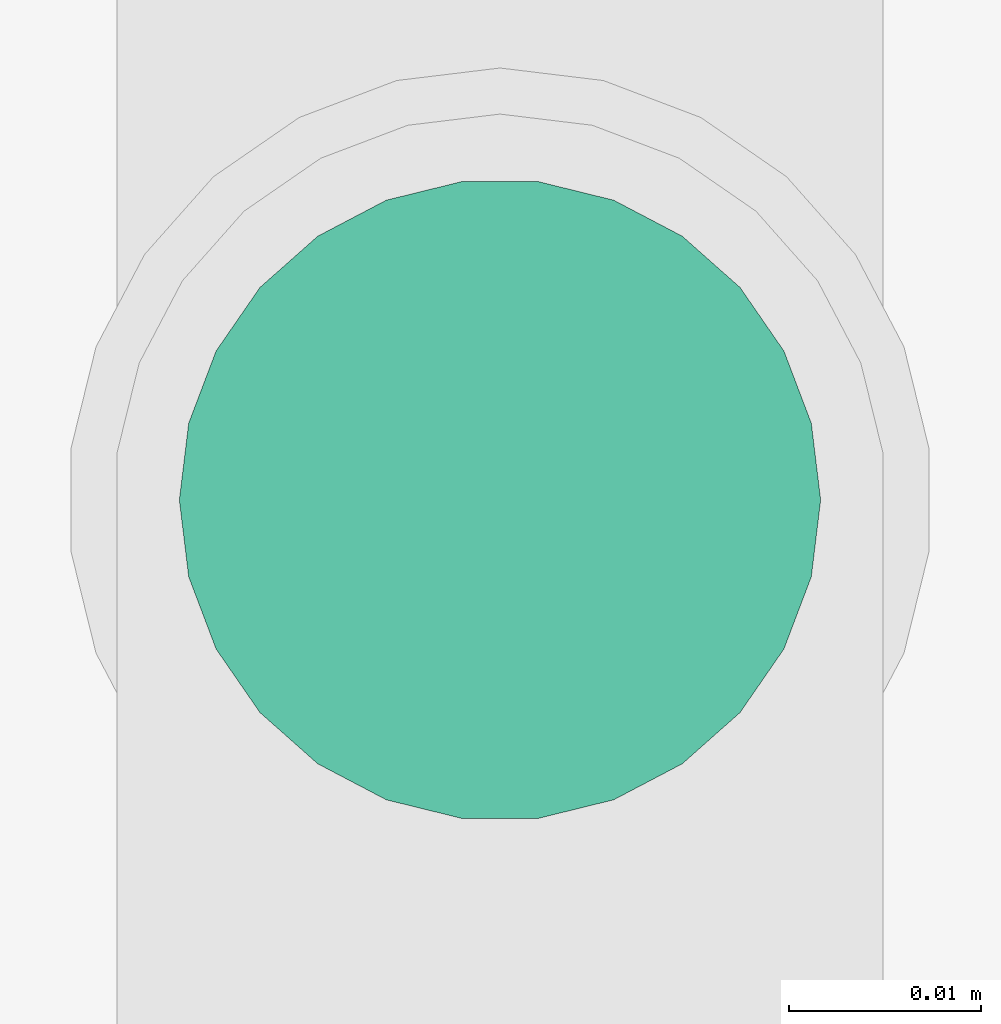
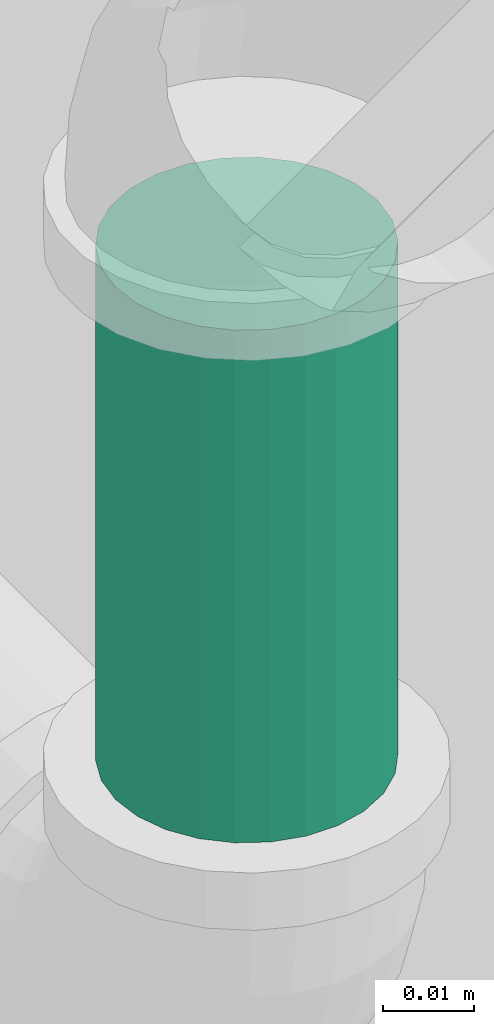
# One storey, part 97 of 108: 1 pipe segment.
"""IFC4 building model written with IfcOpenShell, lengths in feet."""

import ifcopenshell
import ifcopenshell.guid

model = None  # the IFC model being written
_history = None  # IfcOwnerHistory: only IFC2X3 demands one
_inside = {}  # id of a spatial element -> (the spatial element, [elements in it])
_under = {}  # id of a project, library or spatial element -> (it, [spatial elements below it])
_declared = {}  # id of a project -> (the project, [libraries it declares])
_typed = {}  # id of a type object -> (the type object, [elements of that type])
_made_of = {}  # id of a material, layer set ... -> (it, [elements and type objects made of it])


def new_model(schema):
    """Start an empty IFC model of exactly this schema.

    Asked for "IFC4X3", IfcOpenShell would pick the latest addendum, in which some entities
    have other attributes; the version numbers below select the first issue.
    IFC2X3 requires an IfcOwnerHistory on every rooted entity: one is made here for all.
    """
    global model, _history
    if schema == "IFC4X3":
        model = ifcopenshell.file(schema_version=(4, 3, 0, 0))
    else:
        model = ifcopenshell.file(schema=schema)
    _inside.clear()
    _under.clear()
    _declared.clear()
    _typed.clear()
    _made_of.clear()
    _history = None
    if model.schema == "IFC2X3":
        org = make("IfcOrganization", Name="unknown")
        user = make(
            "IfcPersonAndOrganization",
            ThePerson=make("IfcPerson", FamilyName="unknown"),
            TheOrganization=org,
        )
        app = make(
            "IfcApplication",
            ApplicationDeveloper=org,
            Version="unknown",
            ApplicationFullName="unknown",
            ApplicationIdentifier="unknown",
        )
        _history = make(
            "IfcOwnerHistory",
            OwningUser=user,
            OwningApplication=app,
            ChangeAction="ADDED",
            CreationDate=0,
        )
    return model


def make(cls, **values):
    """One entity of the class cls with the attributes given. An attribute that is None is left unset."""
    return model.create_entity(
        cls, **{name: value for name, value in values.items() if value is not None}
    )


def entity(cls, *values):
    """Any entity or typed value of the class cls, its attributes in the order of the schema. None: left unset."""
    e = model.create_entity(cls)
    for i, value in enumerate(values):
        if value is not None:
            e[i] = value
    return e


def rooted(cls, **values):
    """An entity with a GlobalId (a new one), such as an element, a storey or a relation."""
    return make(cls, GlobalId=ifcopenshell.guid.new(), OwnerHistory=_history, **values)


def si_unit(unit_type, name, prefix=None):
    """IfcSIUnit, for example si_unit("LENGTHUNIT", "METRE", prefix="MILLI")."""
    return make("IfcSIUnit", UnitType=unit_type, Prefix=prefix, Name=name)


def converted_unit(unit_type, name, factor, base, dimensions=None, offset=None):
    """IfcConversionBasedUnit, such as the inch: factor (a typed value) times the base unit."""
    return make(
        "IfcConversionBasedUnit"
        if offset is None
        else "IfcConversionBasedUnitWithOffset",
        ConversionOffset=offset,
        Dimensions=None
        if dimensions is None
        else entity("IfcDimensionalExponents", *dimensions),
        UnitType=unit_type,
        Name=name,
        ConversionFactor=make(
            "IfcMeasureWithUnit", ValueComponent=factor, UnitComponent=base
        ),
    )


def derived_unit(unit_type, elements):
    """IfcDerivedUnit: a product of units, each with its exponent."""
    return make(
        "IfcDerivedUnit",
        Elements=[
            make("IfcDerivedUnitElement", Unit=unit, Exponent=power)
            for unit, power in elements
        ],
        UnitType=unit_type,
    )


def assignment(units):
    """IfcUnitAssignment: the units of a project."""
    return None if units is None else make("IfcUnitAssignment", Units=units)


def point(xyz):
    """IfcCartesianPoint."""
    return None if xyz is None else make("IfcCartesianPoint", Coordinates=xyz)


def direction(xyz):
    """IfcDirection."""
    return None if xyz is None else make("IfcDirection", DirectionRatios=xyz)


def frame(location, z_axis=None, x_axis=None):
    """IfcAxis2Placement3D, a coordinate frame: its origin and axes. An axis left out is left unset."""
    return make(
        "IfcAxis2Placement3D",
        Location=point(location),
        Axis=direction(z_axis),
        RefDirection=direction(x_axis),
    )


def frame_2d(location, x_axis=None):
    """IfcAxis2Placement2D, a coordinate frame in the plane: its origin and x axis."""
    return make(
        "IfcAxis2Placement2D", Location=point(location), RefDirection=direction(x_axis)
    )


def origin():
    """The frame at (0, 0, 0) with its axes left unset."""
    return frame((0.0, 0.0, 0.0))


def origin_2d_with_axis():
    """The frame at (0, 0) in the plane with the x axis (1, 0) written out."""
    return frame_2d((0.0, 0.0), x_axis=(1.0, 0.0))


def place(relative_to, where):
    """IfcLocalPlacement: puts the frame where relative to a parent placement (None: the world)."""
    return make(
        "IfcLocalPlacement", PlacementRelTo=relative_to, RelativePlacement=where
    )


def context(
    kind, dimensions, precision=None, world=None, true_north=None, identifier=None
):
    """IfcGeometricRepresentationContext, for example the 3D "Model" context."""
    return make(
        "IfcGeometricRepresentationContext",
        ContextIdentifier=identifier,
        ContextType=kind,
        CoordinateSpaceDimension=dimensions,
        Precision=precision,
        WorldCoordinateSystem=world,
        TrueNorth=true_north,
    )


def subcontext(parent, identifier, kind, view, scale=None):
    """IfcGeometricRepresentationSubContext, for example "Body" below "Model"."""
    return make(
        "IfcGeometricRepresentationSubContext",
        ContextIdentifier=identifier,
        ContextType=kind,
        ParentContext=parent,
        TargetScale=scale,
        TargetView=view,
    )


def project(units=None, contexts=None):
    """IfcProject with its units and contexts."""
    return rooted(
        "IfcProject",
        Name="project",
        RepresentationContexts=contexts,
        UnitsInContext=assignment(units),
    )


def spatial(cls, under=None, at=None, **own):
    """A site, building, storey or space (cls), placed at a placement, below another one or the project."""
    s = rooted(cls, ObjectPlacement=at, **own)
    if under is not None:
        _under.setdefault(under.id(), (under, []))[1].append(s)
    return s


def profile(cls, at=None, kind="AREA", **sizes):
    """A parametric profile (cls). Its sizes go by their IFC names, for example OverallWidth=200.0."""
    return make(cls, ProfileType=kind, Position=at, **sizes)


def circle(**sizes):
    """IfcCircleProfileDef."""
    return profile("IfcCircleProfileDef", **sizes)


def extrude(swept, where, along, depth):
    """IfcExtrudedAreaSolid: the profile swept, set in the frame where, extruded along a direction by depth."""
    return make(
        "IfcExtrudedAreaSolid",
        SweptArea=swept,
        Position=where,
        ExtrudedDirection=direction(along),
        Depth=depth,
    )


def shape(context_of_items, identifier, shape_type, items):
    """IfcShapeRepresentation: the items that make up one representation, for example the "Body"."""
    return make(
        "IfcShapeRepresentation",
        ContextOfItems=context_of_items,
        RepresentationIdentifier=identifier,
        RepresentationType=shape_type,
        Items=items,
    )


def made_of(thing, what):
    """Note that an element or type object is made of a material, layer set ...; save() writes the relation."""
    if what is not None:
        _made_of.setdefault(what.id(), (what, []))[1].append(thing)
    return thing


def type_object(cls, material=None, **own):
    """A type object (cls), such as IfcWallType, which elements share."""
    return made_of(rooted(cls, **own), material)


def element(
    cls,
    number,
    at=None,
    inside=None,
    cuts=None,
    type_object=None,
    material=None,
    context=None,
    identifier="Body",
    shape_type=None,
    held_by="IfcProductDefinitionShape",
    body=None,
    shapes=None,
    **own,
):
    """One element of the class cls, such as IfcWall. Its Tag is "e" and its number.

    at: its placement. inside: the storey or other place that contains it. cuts: it is an
    opening in that element (IfcRelVoidsElement). A single representation is given by context,
    identifier, shape_type and body (its items); several are given by shapes. held_by: the class
    of the entity that holds the representations. save() writes the other relations.
    """
    e = rooted(cls, Tag="e%d" % number, ObjectPlacement=at, **own)
    if body is not None:
        shapes = [shape(context, identifier, shape_type, body)]
    if shapes is not None:
        e.Representation = make(held_by, Representations=shapes)
    if inside is not None:
        _inside.setdefault(inside.id(), (inside, []))[1].append(e)
    if cuts is not None:
        rooted(
            "IfcRelVoidsElement", RelatingBuildingElement=cuts, RelatedOpeningElement=e
        )
    if type_object is not None:
        _typed.setdefault(type_object.id(), (type_object, []))[1].append(e)
    return made_of(e, material)


def aggregate(whole, parts):
    """IfcRelAggregates: a whole, such as a stair, and the parts it consists of."""
    return rooted("IfcRelAggregates", RelatingObject=whole, RelatedObjects=parts)


def save(model, path):
    """Write the relations noted so far, then the file.

    IfcRelAggregates (storeys below a building ...), IfcRelContainedInSpatialStructure (elements
    in a storey), IfcRelDefinesByType, IfcRelAssociatesMaterial and IfcRelDeclares: one each for
    every whole, place, type object, material and project.
    """
    for whole, parts in _under.values():
        aggregate(whole, parts)
    for where, things in _inside.values():
        rooted(
            "IfcRelContainedInSpatialStructure",
            RelatedElements=things,
            RelatingStructure=where,
        )
    for kind, things in _typed.values():
        rooted("IfcRelDefinesByType", RelatedObjects=things, RelatingType=kind)
    for what, things in _made_of.values():
        rooted("IfcRelAssociatesMaterial", RelatedObjects=things, RelatingMaterial=what)
    for by, libraries in _declared.values():
        rooted("IfcRelDeclares", RelatingContext=by, RelatedDefinitions=libraries)
    model.write(path)


model = new_model("IFC4")

# Units and contexts
model_context = context("Model", 3, precision=0.0001, world=origin(), true_north=direction((6.12303176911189e-17, 1.0)))
body_context = subcontext(model_context, "Body", "Model", "MODEL_VIEW")
ifc_project = project(units=[converted_unit("LENGTHUNIT", "FOOT", entity("IfcRatioMeasure", 0.3048), si_unit("LENGTHUNIT", "METRE"), dimensions=[1, 0, 0, 0, 0, 0, 0]), converted_unit("AREAUNIT", "SQUARE FOOT", entity("IfcRatioMeasure", 0.09290304), si_unit("AREAUNIT", "SQUARE_METRE"), dimensions=[2, 0, 0, 0, 0, 0, 0]), converted_unit("VOLUMEUNIT", "CUBIC FOOT", entity("IfcRatioMeasure", 0.028316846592), si_unit("VOLUMEUNIT", "CUBIC_METRE"), dimensions=[3, 0, 0, 0, 0, 0, 0]), converted_unit("PLANEANGLEUNIT", "DEGREE", entity("IfcRatioMeasure", 0.0174532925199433), si_unit("PLANEANGLEUNIT", "RADIAN"), dimensions=[0, 0, 0, 0, 0, 0, 0]), si_unit("MASSUNIT", "GRAM", prefix="KILO"), derived_unit("MASSDENSITYUNIT", [(si_unit("MASSUNIT", "GRAM", prefix="KILO"), 1), (si_unit("LENGTHUNIT", "METRE"), -3)]), si_unit("TIMEUNIT", "SECOND"), si_unit("FREQUENCYUNIT", "HERTZ"), si_unit("THERMODYNAMICTEMPERATUREUNIT", "DEGREE_CELSIUS"), derived_unit("THERMALTRANSMITTANCEUNIT", [(si_unit("MASSUNIT", "GRAM", prefix="KILO"), 1), (si_unit("THERMODYNAMICTEMPERATUREUNIT", "KELVIN"), -1), (si_unit("TIMEUNIT", "SECOND"), -3)]), derived_unit("VOLUMETRICFLOWRATEUNIT", [(si_unit("LENGTHUNIT", "METRE"), 3), (si_unit("TIMEUNIT", "SECOND"), -1)]), si_unit("ELECTRICCURRENTUNIT", "AMPERE"), si_unit("ELECTRICVOLTAGEUNIT", "VOLT"), si_unit("POWERUNIT", "WATT"), si_unit("FORCEUNIT", "NEWTON"), si_unit("ILLUMINANCEUNIT", "LUX"), si_unit("LUMINOUSFLUXUNIT", "LUMEN"), si_unit("LUMINOUSINTENSITYUNIT", "CANDELA"), derived_unit("USERDEFINED", [(si_unit("MASSUNIT", "GRAM", prefix="KILO"), -1), (si_unit("LENGTHUNIT", "METRE"), -2), (si_unit("TIMEUNIT", "SECOND"), 3), (si_unit("LUMINOUSFLUXUNIT", "LUMEN"), 1)]), derived_unit("LINEARVELOCITYUNIT", [(si_unit("LENGTHUNIT", "METRE"), 1), (si_unit("TIMEUNIT", "SECOND"), -1)]), si_unit("PRESSUREUNIT", "PASCAL"), derived_unit("USERDEFINED", [(si_unit("LENGTHUNIT", "METRE"), -2), (si_unit("MASSUNIT", "GRAM", prefix="KILO"), 1), (si_unit("TIMEUNIT", "SECOND"), -2)])], contexts=[model_context])

# Site, building, storey
site_placement = place(None, origin())
site = spatial("IfcSite", under=ifc_project, at=site_placement, Name="Default", CompositionType="ELEMENT")
building_placement = place(site_placement, origin())
building = spatial("IfcBuilding", under=site, at=building_placement, CompositionType="ELEMENT")
storey_placement = place(building_placement, frame((0.0, 0.0, 168.0)))
storey = spatial("IfcBuildingStorey", under=building, at=storey_placement, Name="Level 15", CompositionType="ELEMENT", Elevation=168.0)

# Pipe segment
pipe_segment_type = type_object("IfcPipeSegmentType", Name="Pipe Types:Fire Prot Sched 10 Main", PredefinedType="NOTDEFINED")
pipe_segment_placement = place(storey_placement, frame((-33.5674577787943, 4.95472806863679, 8.72537760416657)))
element("IfcPipeSegment", 1, at=pipe_segment_placement, inside=storey, type_object=pipe_segment_type, Name="Pipe Types:Fire Prot Sched 10 Main", ObjectType="Pipe Types:Fire Prot Sched 10 Main", PredefinedType="NOTDEFINED", context=body_context, shape_type="SweptSolid", body=[
    extrude(circle(Radius=0.0547916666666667, at=origin_2d_with_axis()), frame((0.0600254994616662, 0.0600254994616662, 0.0)), (0.0, 0.0, 1.0), 0.226328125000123),
])

save(model, "model.ifc")
